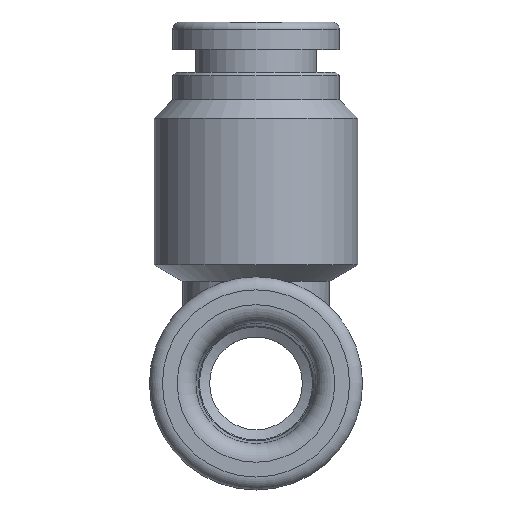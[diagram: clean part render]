
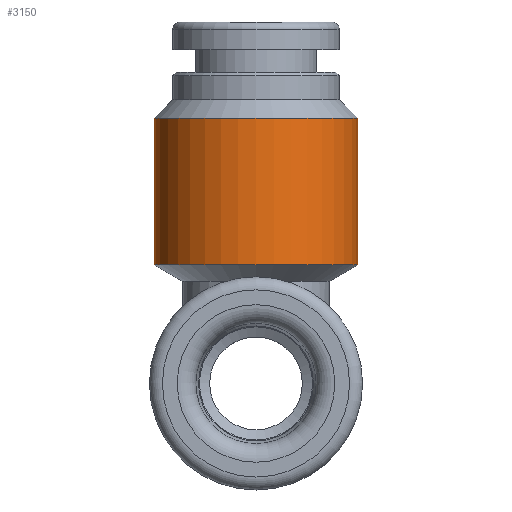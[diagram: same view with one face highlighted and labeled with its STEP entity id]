
A CAD part, left-side view. The second image highlights one B-rep face of the part: STEP entity #3150.
In plain terms, the highlighted cylindrical face has radius 5.5 mm (diameter 11 mm), a full revolution.
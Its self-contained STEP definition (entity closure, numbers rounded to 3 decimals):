
#3150=ADVANCED_FACE('', (#3160,#3170), #3180, .T.);
#9790=AXIS2_PLACEMENT_3D('Ax2Pl3d', #9800, #9810, #9820);
#9910=AXIS2_PLACEMENT_3D('Ax2Pl3d', #9920, #9930, #9940);
#9950=AXIS2_PLACEMENT_3D('Ax2Pl3d', #9960, #9970, #9980);
#9800=CARTESIAN_POINT('HicPkt', (46.33,16.263,
29.213));
#18240=CARTESIAN_POINT('', (40.83,16.263,29.213));
#9920=CARTESIAN_POINT('HicPkt', (46.33,16.263,
21.308));
#9960=CARTESIAN_POINT('HicPkt', (46.33,16.263,
21.308));
#18260=CARTESIAN_POINT('', (40.83,16.263,21.308));
#19100=CIRCLE('Circle', #9790, 5.5);
#19120=CIRCLE('Circle', #9950, 5.5);
#3180=CYLINDRICAL_SURFACE('Zyl', #9910, 5.5);
#9810=DIRECTION('Axis', (0.,0.,-1.));
#9820=DIRECTION('RefDirection', (-1.,-0.,0.));
#9930=DIRECTION('Axis', (0.,0.,1.));
#9940=DIRECTION('RefDirection', (1.,0.,-0.));
#9970=DIRECTION('Axis', (0.,0.,-1.));
#9980=DIRECTION('RefDirection', (-1.,-0.,0.));
#23490=EDGE_CURVE('', #23500, #23500, #19100, .T.);
#23530=EDGE_CURVE('', #23540, #23540, #19120, .T.);
#26730=EDGE_LOOP('Edge_loop', (#26740));
#26750=EDGE_LOOP('Edge_loop', (#26760));
#3170=FACE_BOUND('', #26750, .T.);
#3160=FACE_OUTER_BOUND('Face_outer_bound', #26730, .T.);
#26740=ORIENTED_EDGE('', *, *, #23490, .T.);
#26760=ORIENTED_EDGE('', *, *, #23530, .F.);
#23500=VERTEX_POINT('', #18240);
#23540=VERTEX_POINT('', #18260);
